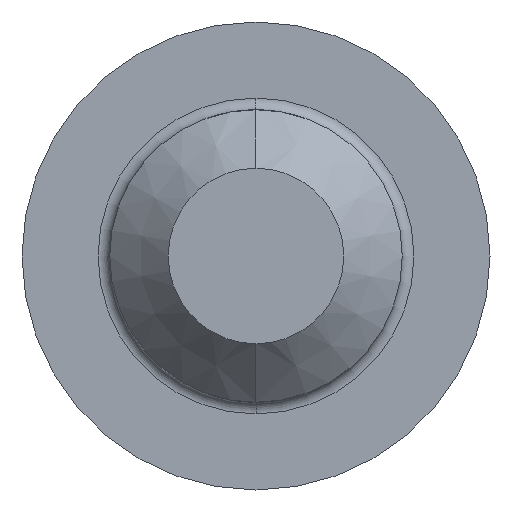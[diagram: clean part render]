
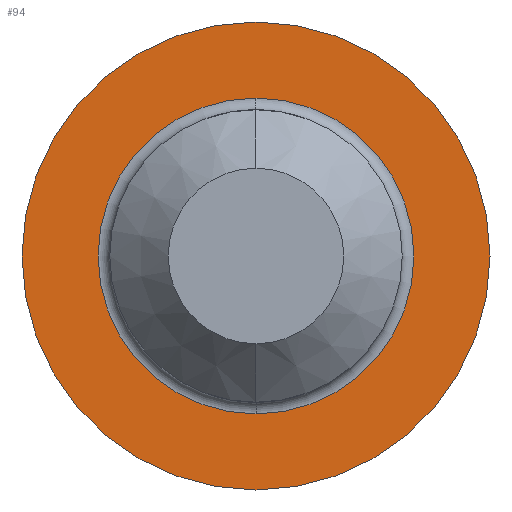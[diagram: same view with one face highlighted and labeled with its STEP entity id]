
A CAD part, left-side view. The second image highlights one B-rep face of the part: STEP entity #94.
In plain terms, the highlighted planar face has unit normal (-1, 0, 0).
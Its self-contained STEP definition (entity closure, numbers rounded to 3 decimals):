
#1 = ORIENTED_EDGE ( 'NONE', *, *, #123, .T. ) ;
#28 = VERTEX_POINT ( 'NONE', #149 ) ;
#29 = VERTEX_POINT ( 'NONE', #166 ) ;
#46 = EDGE_CURVE ( 'NONE', #28, #29, #231, .T. ) ;
#49 = EDGE_CURVE ( 'NONE', #199, #209, #202, .T. ) ;
#64 = ORIENTED_EDGE ( 'NONE', *, *, #49, .T. ) ;
#79 = EDGE_LOOP ( 'NONE', ( #105, #1 ) ) ;
#93 = EDGE_CURVE ( 'NONE', #209, #199, #355, .T. ) ;
#94 = ADVANCED_FACE ( 'NONE', ( #331, #387 ), #344, .F. ) ;
#95 = ORIENTED_EDGE ( 'NONE', *, *, #93, .T. ) ;
#105 = ORIENTED_EDGE ( 'NONE', *, *, #46, .T. ) ;
#123 = EDGE_CURVE ( 'NONE', #29, #28, #372, .T. ) ;
#124 = EDGE_LOOP ( 'NONE', ( #95, #64 ) ) ;
#149 = CARTESIAN_POINT ( 'NONE',  ( 0., 0., 4. ) ) ;
#160 = DIRECTION ( 'NONE',  ( 0., 0., -1. ) ) ;
#166 = CARTESIAN_POINT ( 'NONE',  ( 0., 0., -4. ) ) ;
#181 = DIRECTION ( 'NONE',  ( 1., 0., 0. ) ) ;
#182 = CARTESIAN_POINT ( 'NONE',  ( 0., 0., 0. ) ) ;
#183 = AXIS2_PLACEMENT_3D ( 'NONE', #182, #181, #160 ) ;
#199 = VERTEX_POINT ( 'NONE', #401 ) ;
#202 = CIRCLE ( 'NONE', #183, 2.7 ) ;
#209 = VERTEX_POINT ( 'NONE', #320 ) ;
#231 = CIRCLE ( 'NONE', #239, 4. ) ;
#235 = DIRECTION ( 'NONE',  ( 0., 0., 1. ) ) ;
#236 = DIRECTION ( 'NONE',  ( -1., 0., 0. ) ) ;
#239 = AXIS2_PLACEMENT_3D ( 'NONE', #240, #236, #235 ) ;
#240 = CARTESIAN_POINT ( 'NONE',  ( 0., 0., 0. ) ) ;
#320 = CARTESIAN_POINT ( 'NONE',  ( 0., 0., -2.7 ) ) ;
#330 = AXIS2_PLACEMENT_3D ( 'NONE', #381, #380, #349 ) ;
#331 = FACE_BOUND ( 'NONE', #124, .T. ) ;
#338 = AXIS2_PLACEMENT_3D ( 'NONE', #356, #418, #383 ) ;
#343 = CARTESIAN_POINT ( 'NONE',  ( 0., 0., 0. ) ) ;
#344 = PLANE ( 'NONE',  #330 ) ;
#349 = DIRECTION ( 'NONE',  ( 0., 0., -1. ) ) ;
#350 = DIRECTION ( 'NONE',  ( 0., 0., -1. ) ) ;
#351 = DIRECTION ( 'NONE',  ( 1., 0., 0. ) ) ;
#355 = CIRCLE ( 'NONE', #427, 2.7 ) ;
#356 = CARTESIAN_POINT ( 'NONE',  ( 0., 0., 0. ) ) ;
#372 = CIRCLE ( 'NONE', #338, 4. ) ;
#380 = DIRECTION ( 'NONE',  ( 1., 0., 0. ) ) ;
#381 = CARTESIAN_POINT ( 'NONE',  ( 0., 4., 0. ) ) ;
#383 = DIRECTION ( 'NONE',  ( 0., 0., 1. ) ) ;
#387 = FACE_OUTER_BOUND ( 'NONE', #79, .T. ) ;
#401 = CARTESIAN_POINT ( 'NONE',  ( 0., 0., 2.7 ) ) ;
#418 = DIRECTION ( 'NONE',  ( -1., 0., 0. ) ) ;
#427 = AXIS2_PLACEMENT_3D ( 'NONE', #343, #351, #350 ) ;
